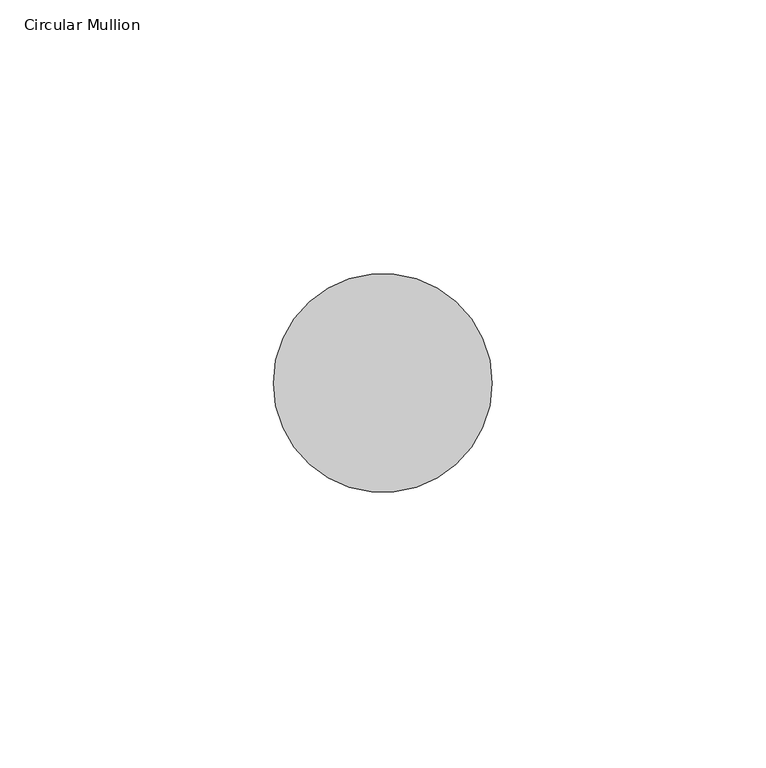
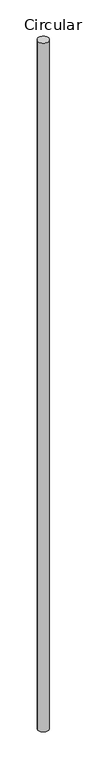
"""IFC4 building model written with IfcOpenShell, lengths in millimetres: member geometry, Circular Mullion : GRADIL 40mm."""

import ifcopenshell
import ifcopenshell.guid

model = None  # the IFC model being written
_history = None  # IfcOwnerHistory: only IFC2X3 demands one
_inside = {}  # id of a spatial element -> (the spatial element, [elements in it])
_under = {}  # id of a project, library or spatial element -> (it, [spatial elements below it])
_declared = {}  # id of a project -> (the project, [libraries it declares])
_typed = {}  # id of a type object -> (the type object, [elements of that type])
_made_of = {}  # id of a material, layer set ... -> (it, [elements and type objects made of it])


def new_model(schema):
    """Start an empty IFC model of exactly this schema.

    Asked for "IFC4X3", IfcOpenShell would pick the latest addendum, in which some entities
    have other attributes; the version numbers below select the first issue.
    IFC2X3 requires an IfcOwnerHistory on every rooted entity: one is made here for all.
    """
    global model, _history
    if schema == "IFC4X3":
        model = ifcopenshell.file(schema_version=(4, 3, 0, 0))
    else:
        model = ifcopenshell.file(schema=schema)
    _inside.clear()
    _under.clear()
    _declared.clear()
    _typed.clear()
    _made_of.clear()
    _history = None
    if model.schema == "IFC2X3":
        org = make("IfcOrganization", Name="unknown")
        user = make(
            "IfcPersonAndOrganization",
            ThePerson=make("IfcPerson", FamilyName="unknown"),
            TheOrganization=org,
        )
        app = make(
            "IfcApplication",
            ApplicationDeveloper=org,
            Version="unknown",
            ApplicationFullName="unknown",
            ApplicationIdentifier="unknown",
        )
        _history = make(
            "IfcOwnerHistory",
            OwningUser=user,
            OwningApplication=app,
            ChangeAction="ADDED",
            CreationDate=0,
        )
    return model


def make(cls, **values):
    """One entity of the class cls with the attributes given. An attribute that is None is left unset."""
    return model.create_entity(
        cls, **{name: value for name, value in values.items() if value is not None}
    )


def rooted(cls, **values):
    """An entity with a GlobalId (a new one), such as an element, a storey or a relation."""
    return make(cls, GlobalId=ifcopenshell.guid.new(), OwnerHistory=_history, **values)


def si_unit(unit_type, name, prefix=None):
    """IfcSIUnit, for example si_unit("LENGTHUNIT", "METRE", prefix="MILLI")."""
    return make("IfcSIUnit", UnitType=unit_type, Prefix=prefix, Name=name)


def assignment(units):
    """IfcUnitAssignment: the units of a project."""
    return None if units is None else make("IfcUnitAssignment", Units=units)


def point(xyz):
    """IfcCartesianPoint."""
    return None if xyz is None else make("IfcCartesianPoint", Coordinates=xyz)


def direction(xyz):
    """IfcDirection."""
    return None if xyz is None else make("IfcDirection", DirectionRatios=xyz)


def frame(location, z_axis=None, x_axis=None):
    """IfcAxis2Placement3D, a coordinate frame: its origin and axes. An axis left out is left unset."""
    return make(
        "IfcAxis2Placement3D",
        Location=point(location),
        Axis=direction(z_axis),
        RefDirection=direction(x_axis),
    )


def frame_2d(location, x_axis=None):
    """IfcAxis2Placement2D, a coordinate frame in the plane: its origin and x axis."""
    return make(
        "IfcAxis2Placement2D", Location=point(location), RefDirection=direction(x_axis)
    )


def origin():
    """The frame at (0, 0, 0) with its axes left unset."""
    return frame((0.0, 0.0, 0.0))


def origin_2d():
    """The frame at (0, 0) in the plane with its x axis left unset."""
    return frame_2d((0.0, 0.0))


def place(relative_to, where):
    """IfcLocalPlacement: puts the frame where relative to a parent placement (None: the world)."""
    return make(
        "IfcLocalPlacement", PlacementRelTo=relative_to, RelativePlacement=where
    )


def context(
    kind, dimensions, precision=None, world=None, true_north=None, identifier=None
):
    """IfcGeometricRepresentationContext, for example the 3D "Model" context."""
    return make(
        "IfcGeometricRepresentationContext",
        ContextIdentifier=identifier,
        ContextType=kind,
        CoordinateSpaceDimension=dimensions,
        Precision=precision,
        WorldCoordinateSystem=world,
        TrueNorth=true_north,
    )


def project(units=None, contexts=None):
    """IfcProject with its units and contexts."""
    return rooted(
        "IfcProject",
        Name="project",
        RepresentationContexts=contexts,
        UnitsInContext=assignment(units),
    )


def spatial(cls, under=None, at=None, **own):
    """A site, building, storey or space (cls), placed at a placement, below another one or the project."""
    s = rooted(cls, ObjectPlacement=at, **own)
    if under is not None:
        _under.setdefault(under.id(), (under, []))[1].append(s)
    return s


def circle_curve(where, radius):
    """IfcCircle in the frame where."""
    return make("IfcCircle", Position=where, Radius=radius)


def trimmed(basis, trim1, trim2, sense, master):
    """IfcTrimmedCurve: the piece of a basis curve between two trims."""
    return make(
        "IfcTrimmedCurve",
        BasisCurve=basis,
        Trim1=trim1,
        Trim2=trim2,
        SenseAgreement=sense,
        MasterRepresentation=master,
    )


def segment(curve, same_sense, transition):
    """IfcCompositeCurveSegment."""
    return make(
        "IfcCompositeCurveSegment",
        Transition=transition,
        SameSense=same_sense,
        ParentCurve=curve,
    )


def composite_curve(segments, self_intersect=None):
    """IfcCompositeCurve: segments joined end to end."""
    return make("IfcCompositeCurve", Segments=segments, SelfIntersect=self_intersect)


def outline(outer, holes=None, kind="AREA"):
    """IfcArbitraryClosedProfileDef: a profile drawn as a closed curve; with holes, ...WithVoids."""
    if holes is None:
        return make("IfcArbitraryClosedProfileDef", ProfileType=kind, OuterCurve=outer)
    return make(
        "IfcArbitraryProfileDefWithVoids",
        ProfileType=kind,
        OuterCurve=outer,
        InnerCurves=holes,
    )


def extrude(swept, where, along, depth):
    """IfcExtrudedAreaSolid: the profile swept, set in the frame where, extruded along a direction by depth."""
    return make(
        "IfcExtrudedAreaSolid",
        SweptArea=swept,
        Position=where,
        ExtrudedDirection=direction(along),
        Depth=depth,
    )


def shape(context_of_items, identifier, shape_type, items):
    """IfcShapeRepresentation: the items that make up one representation, for example the "Body"."""
    return make(
        "IfcShapeRepresentation",
        ContextOfItems=context_of_items,
        RepresentationIdentifier=identifier,
        RepresentationType=shape_type,
        Items=items,
    )


def source(mapping_origin, context_of_items, identifier, shape_type, items):
    """IfcRepresentationMap: a shape defined once, which mapped items show again and again."""
    return make(
        "IfcRepresentationMap",
        MappingOrigin=mapping_origin,
        MappedRepresentation=shape(context_of_items, identifier, shape_type, items),
    )


def transform(
    local_origin,
    x_axis=None,
    y_axis=None,
    z_axis=None,
    scale=None,
    scale2=None,
    scale3=None,
    uniform=True,
):
    """IfcCartesianTransformationOperator3D, or its non-uniform kind. x_axis, y_axis, z_axis: its Axis1, 2, 3."""
    if uniform:
        return make(
            "IfcCartesianTransformationOperator3D",
            Axis1=direction(x_axis),
            Axis2=direction(y_axis),
            LocalOrigin=point(local_origin),
            Scale=scale,
            Axis3=direction(z_axis),
        )
    return make(
        "IfcCartesianTransformationOperator3DnonUniform",
        Axis1=direction(x_axis),
        Axis2=direction(y_axis),
        LocalOrigin=point(local_origin),
        Scale=scale,
        Axis3=direction(z_axis),
        Scale2=scale2,
        Scale3=scale3,
    )


def mapped(mapping_source, mapping_target):
    """IfcMappedItem: shows the shape of a source again, moved by a transform."""
    return make(
        "IfcMappedItem", MappingSource=mapping_source, MappingTarget=mapping_target
    )


def made_of(thing, what):
    """Note that an element or type object is made of a material, layer set ...; save() writes the relation."""
    if what is not None:
        _made_of.setdefault(what.id(), (what, []))[1].append(thing)
    return thing


def element(
    cls,
    number,
    at=None,
    inside=None,
    cuts=None,
    type_object=None,
    material=None,
    context=None,
    identifier="Body",
    shape_type=None,
    held_by="IfcProductDefinitionShape",
    body=None,
    shapes=None,
    **own,
):
    """One element of the class cls, such as IfcWall. Its Tag is "e" and its number.

    at: its placement. inside: the storey or other place that contains it. cuts: it is an
    opening in that element (IfcRelVoidsElement). A single representation is given by context,
    identifier, shape_type and body (its items); several are given by shapes. held_by: the class
    of the entity that holds the representations. save() writes the other relations.
    """
    e = rooted(cls, Tag="e%d" % number, ObjectPlacement=at, **own)
    if body is not None:
        shapes = [shape(context, identifier, shape_type, body)]
    if shapes is not None:
        e.Representation = make(held_by, Representations=shapes)
    if inside is not None:
        _inside.setdefault(inside.id(), (inside, []))[1].append(e)
    if cuts is not None:
        rooted(
            "IfcRelVoidsElement", RelatingBuildingElement=cuts, RelatedOpeningElement=e
        )
    if type_object is not None:
        _typed.setdefault(type_object.id(), (type_object, []))[1].append(e)
    return made_of(e, material)


def aggregate(whole, parts):
    """IfcRelAggregates: a whole, such as a stair, and the parts it consists of."""
    return rooted("IfcRelAggregates", RelatingObject=whole, RelatedObjects=parts)


def save(model, path):
    """Write the relations noted so far, then the file.

    IfcRelAggregates (storeys below a building ...), IfcRelContainedInSpatialStructure (elements
    in a storey), IfcRelDefinesByType, IfcRelAssociatesMaterial and IfcRelDeclares: one each for
    every whole, place, type object, material and project.
    """
    for whole, parts in _under.values():
        aggregate(whole, parts)
    for where, things in _inside.values():
        rooted(
            "IfcRelContainedInSpatialStructure",
            RelatedElements=things,
            RelatingStructure=where,
        )
    for kind, things in _typed.values():
        rooted("IfcRelDefinesByType", RelatedObjects=things, RelatingType=kind)
    for what, things in _made_of.values():
        rooted("IfcRelAssociatesMaterial", RelatedObjects=things, RelatingMaterial=what)
    for by, libraries in _declared.values():
        rooted("IfcRelDeclares", RelatingContext=by, RelatedDefinitions=libraries)
    model.write(path)


def circular_mullion_3d088c91(model_context):
    return source(origin(), model_context, "Body", "SweptSolid", [
        extrude(outline(composite_curve([segment(trimmed(circle_curve(origin_2d(), 20.0), [point((20.0, 0.0))], [point((-20.0, 0.0))], False, "CARTESIAN"), True, "CONTINUOUS"), segment(trimmed(circle_curve(origin_2d(), 20.0), [point((-20.0, 0.0))], [point((20.0, 0.0))], False, "CARTESIAN"), True, "CONTINUOUS")], self_intersect=False)), frame((0.0, 0.0, -2720.0), z_axis=(0.0, 0.0, 1.0), x_axis=(1.0, 0.0, 0.0)), (0.0, 0.0, 1.0), 2720.0),
    ])


if __name__ == "__main__":
    model = new_model("IFC4")
    model_context = context("Model", 3, world=origin())
    ifc_project = project(units=[si_unit("LENGTHUNIT", "METRE", prefix="MILLI")], contexts=[model_context])
    site = spatial("IfcSite", under=ifc_project)
    building = spatial("IfcBuilding", under=site)
    placement = place(None, origin())
    circular_mullion_shape = circular_mullion_3d088c91(model_context)
    element("IfcMember", 1, ObjectType="Circular Mullion : GRADIL 40mm", at=placement, inside=building, context=model_context, shape_type="MappedRepresentation", body=[
        mapped(circular_mullion_shape, transform((0.0, 0.0, 0.0), x_axis=(1.0, 0.0, 0.0), y_axis=(0.0, 1.0, 0.0), z_axis=(0.0, 0.0, 1.0))),
    ])
    save(model, "model.ifc")
